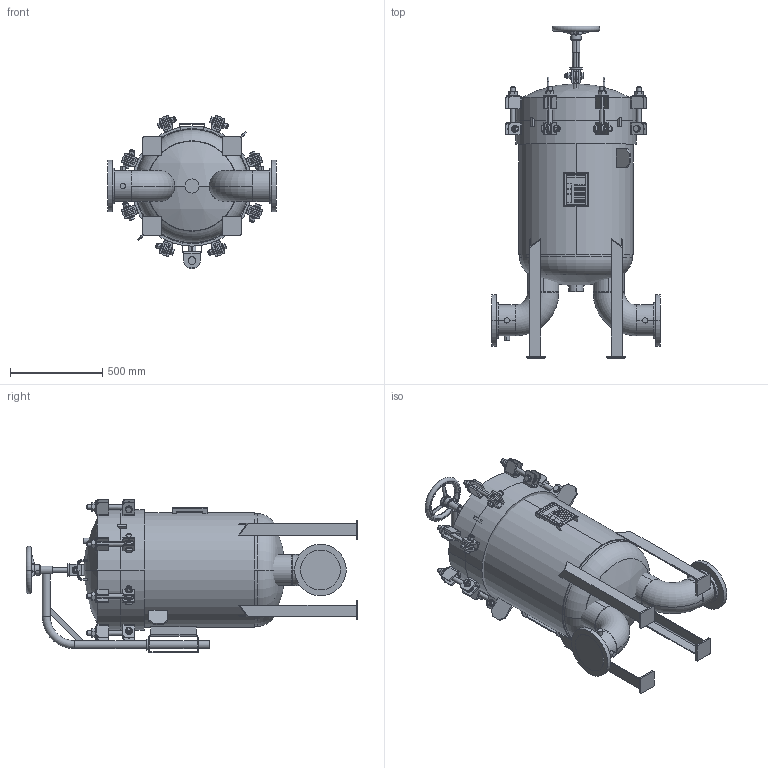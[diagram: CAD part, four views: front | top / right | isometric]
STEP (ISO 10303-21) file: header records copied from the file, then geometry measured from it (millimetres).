
FILE_DESCRIPTION (( 'STEP AP203' ), '1' );
FILE_NAME ('000192_defeature.STEP', '2026-02-02T16:33:06', ( '' ), ( '' ), 'SwSTEP 2.0', 'SolidWorks 2023', '' );
FILE_SCHEMA (( 'CONFIG_CONTROL_DESIGN' ));
Length unit declared in the file: inch
Products named in the file (1): 000192_defeature
Bounding box: 914.4 x 1797.19 x 832.24 mm (x, y, z)
Volume: 145868973.3 mm3; surface area: 9484653.6 mm2
Topology: 53 solids, 53 shells, 1702 faces, 3930 edges, 2440 vertices
Faces by surface type: plane 720, cylinder 470, cone 362, torus 88, bspline 48, sphere 14
Entity records: 55758 total; most frequent: CARTESIAN_POINT 17619, DIRECTION 8022, ORIENTED_EDGE 7836, EDGE_CURVE 3918, AXIS2_PLACEMENT_3D 3197, VERTEX_POINT 2440, EDGE_LOOP 1834, ADVANCED_FACE 1702
